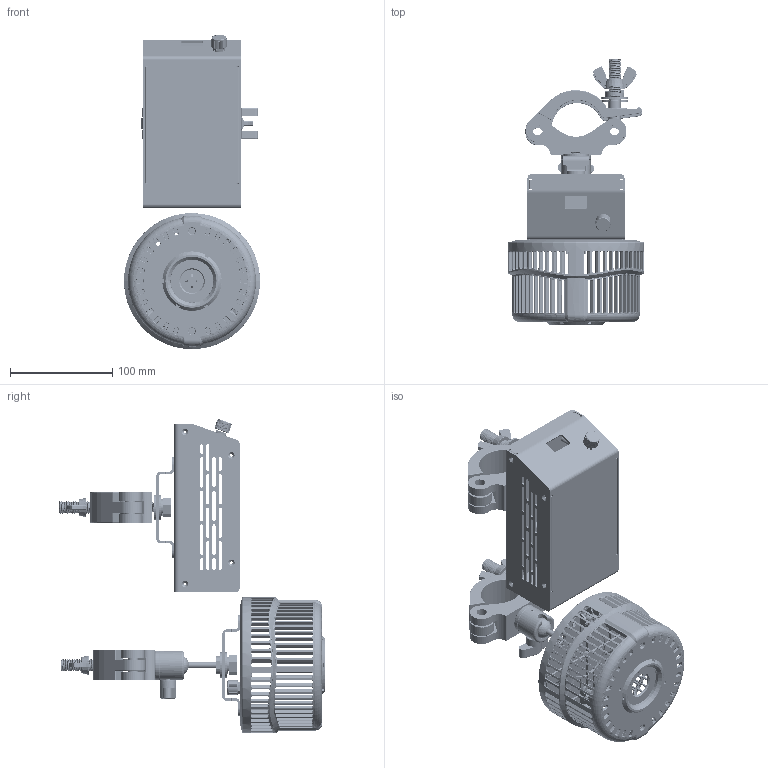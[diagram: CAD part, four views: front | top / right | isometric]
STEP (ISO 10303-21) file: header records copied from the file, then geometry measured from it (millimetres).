
FILE_DESCRIPTION (( 'STEP AP214' ), '1' );
FILE_NAME ('W500X-CLP-PSX.STEP', '2024-01-31T17:54:23', ( '' ), ( '' ), 'SwSTEP 2.0', 'SolidWorks 2022', '' );
FILE_SCHEMA (( 'AUTOMOTIVE_DESIGN' ));
Length unit declared in the file: millimetre
Products named in the file (26): 5022708-XXX_A2_Ball Joint Axis, L=65.8mm___; 62280-231A030_ _SCREW, M10xP1.5 L30mm_Original; 5022405-XXX_A1_Wing Knob Screws, M6xL8.0mm_-001; 5010177-XXX_A2_Assembly BOM, Kessil W500_N-[TG]; 5021416_A1_Hex Nut, M10xP1.5, T8 SUS___; 5020897-2010216520_ _Helical Spring Washer Customized___; 5020757-002_A2_VR Washer, Kessil A360 Aquarium Light___; 5120529-XXX_A1_Assembly BOM, W500 Light Engine_Finish; 5022693-XXX_A1_Bracket, 98.85x25x17.5, T=2.5mm___; 5120522-XXX_A4_Assembly BOM, W360&W500 Light Mounting Type_TG; 62282-5014005_ _Standard Types of Metric Set Screws, M4xL5, Black___; 5021926-XXX_A2_KNOB, 18T, OD=14.9, ID=6, L=10MM_C1; 5120519-XXX_A3_Assembly BOM, Kessil W500 Power Box_TON(US)-PS; 5120530-XXX_A1_Assembly BOM, W500 Reflector Type_No Reflector; 5120539-XXX_A1_Housing, OD=133, ID=121, T=78.1mm, For Reflector, Without Logo___; 5022427-XXX_A4_250W Power Box FRAME (TG&TEX&CLP TYPE), 165x95x64mm___; 5022430-XXX_A1_Ball Joint Part C (For TDE), L=18.9mm___; 5022189_A1_Plate, OD=48, ID=23, T=2.0mm___; 5020757-001_A1_VR Nut, Kessil A360 Aquarium Light___; W500X-CLP-PSX; 5022432-XXX_A2_250W Power Box Cover (TEX-PSX TYPE), 165x92x62.5(H)mm___; 5021736-006_A2_Aluminum Hook, M10, Black_For W500-CLP-PS; 5022431-XXX_A1_Ball Joint Part A, L=23.7mm___; 5120540-XXX_A1_Rear Panel, OD=133, T=13.65mm, W-Series_5120531-001 W500; 62280-231A025_ _SCREW, M10xP1.5 L25mm_Original; 5020893-2010525020_ _Flat Washer, M10, ID10.5 OD25.0, T2 SUS 304___
Assembly tree (38 placements, depth 4):
  W500X-CLP-PSX
    5010177-XXX_A2_Assembly BOM, Kessil W500_N-[TG]
      5120529-XXX_A1_Assembly BOM, W500 Light Engine_Finish
        5120540-XXX_A1_Rear Panel, OD=133, T=13.65mm, W-Series_5120531-001 W500
        5020757-002_A2_VR Washer, Kessil A360 Aquarium Light___  x2
        5020757-001_A1_VR Nut, Kessil A360 Aquarium Light___  x2
        5021926-XXX_A2_KNOB, 18T, OD=14.9, ID=6, L=10MM_C1  x2
      5120530-XXX_A1_Assembly BOM, W500 Reflector Type_No Reflector
        5120539-XXX_A1_Housing, OD=133, ID=121, T=78.1mm, For Reflector, Without Logo___
        5022189_A1_Plate, OD=48, ID=23, T=2.0mm___
      5120522-XXX_A4_Assembly BOM, W360&W500 Light Mounting Type_TG
        5022431-XXX_A1_Ball Joint Part A, L=23.7mm___
        5022430-XXX_A1_Ball Joint Part C (For TDE), L=18.9mm___
        5022708-XXX_A2_Ball Joint Axis, L=65.8mm___
        62282-5014005_ _Standard Types of Metric Set Screws, M4xL5, Black___
        5022405-XXX_A1_Wing Knob Screws, M6xL8.0mm_-001
        5022693-XXX_A1_Bracket, 98.85x25x17.5, T=2.5mm___
        5021736-006_A2_Aluminum Hook, M10, Black_For W500-CLP-PS
        62280-231A025_ _SCREW, M10xP1.5 L25mm_Original
        5020893-2010525020_ _Flat Washer, M10, ID10.5 OD25.0, T2 SUS 304___  x2
        5020897-2010216520_ _Helical Spring Washer Customized___
        5021416_A1_Hex Nut, M10xP1.5, T8 SUS___
    5120519-XXX_A3_Assembly BOM, Kessil W500 Power Box_TON(US)-PS
      5022427-XXX_A4_250W Power Box FRAME (TG&TEX&CLP TYPE), 165x95x64mm___
      5021736-006_A2_Aluminum Hook, M10, Black_For W500-CLP-PS
      62280-231A030_ _SCREW, M10xP1.5 L30mm_Original
      5020893-2010525020_ _Flat Washer, M10, ID10.5 OD25.0, T2 SUS 304___  x2
      5022693-XXX_A1_Bracket, 98.85x25x17.5, T=2.5mm___
      5020897-2010216520_ _Helical Spring Washer Customized___
      5021416_A1_Hex Nut, M10xP1.5, T8 SUS___
      5022432-XXX_A2_250W Power Box Cover (TEX-PSX TYPE), 165x92x62.5(H)mm___
      5020757-002_A2_VR Washer, Kessil A360 Aquarium Light___
      5020757-001_A1_VR Nut, Kessil A360 Aquarium Light___
      5021926-XXX_A2_KNOB, 18T, OD=14.9, ID=6, L=10MM_C1
Bounding box: 133 x 260.47 x 307.37 mm (x, y, z)
Volume: 434659.4 mm3; surface area: 364014.7 mm2
Topology: 49 solids, 49 shells, 6484 faces, 17751 edges, 11261 vertices
Faces by surface type: cylinder 2443, plane 2308, bspline 846, cone 438, torus 403, sphere 46
Entity records: 258103 total; most frequent: CARTESIAN_POINT 123527, ORIENTED_EDGE 29018, DIRECTION 24145, EDGE_CURVE 14509, VERTEX_POINT 9160, AXIS2_PLACEMENT_3D 9002, LINE 6141, VECTOR 6141
